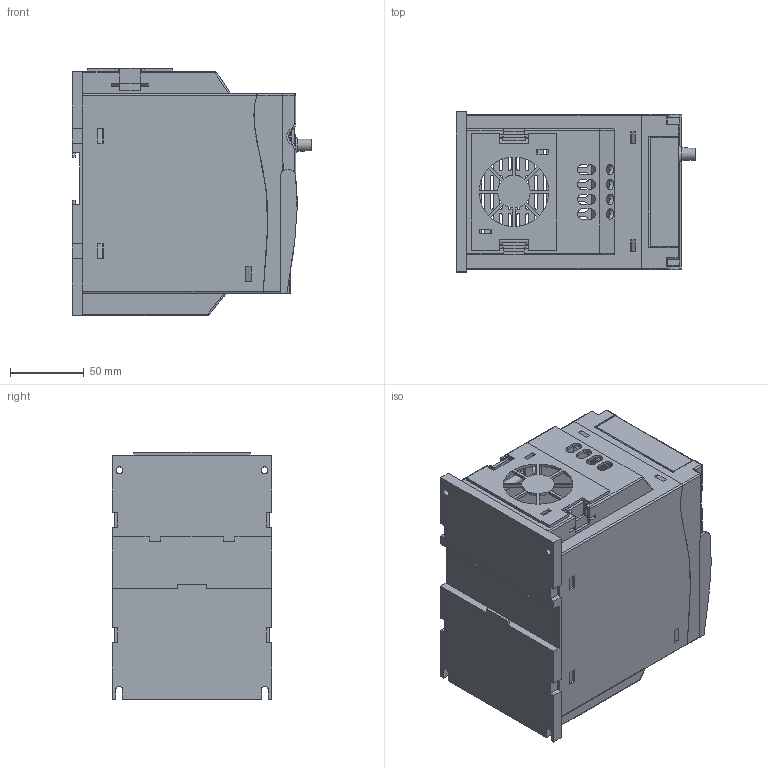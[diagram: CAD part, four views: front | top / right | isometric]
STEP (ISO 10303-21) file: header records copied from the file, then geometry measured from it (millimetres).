
FILE_DESCRIPTION(('STEP AP214'), '1');
FILE_NAME('MCI 04 2B', '', ('UNSPECIFIED'), ('UNSPECIFIED'), 'C3D Converter', 'C3D Toolkit', '');
FILE_SCHEMA(('AUTOMOTIVE_DESIGN { 1 0 10303 214 3 1 1}'));
Length unit declared in the file: millimetre
Products named in the file (7): MCI-G0.4-2B; MCI-KP-S
Assembly tree (6 placements, depth 2):
  MCI-G0.4-2B
    MCI-G0.4-2B
    MCI-G0.4-2B
    MCI-KP-S
    MCI-G0.4-2B
    MCI-G0.4-2B
    MCI-G0.4-2B
Bounding box: 161.85 x 108 x 167 mm (x, y, z)
Volume: 392884.3 mm3; surface area: 270482.9 mm2
Topology: 9 solids, 9 shells, 1169 faces, 3189 edges, 2095 vertices
Faces by surface type: plane 894, cylinder 210, cone 22, torus 20, extrusion 11, sphere 11, bspline 1
Full cylindrical faces by diameter (mm): 1 x4, 2 x10, 4 x10, 4.5 x2, 5 x4, 6 x4, 7 x9
Entity records: 40788 total; most frequent: CARTESIAN_POINT 7827, ORIENTED_EDGE 6232, DIRECTION 5744, EDGE_CURVE 3116, VECTOR 2564, LINE 2553, VERTEX_POINT 2095, AXIS2_PLACEMENT_3D 1590
